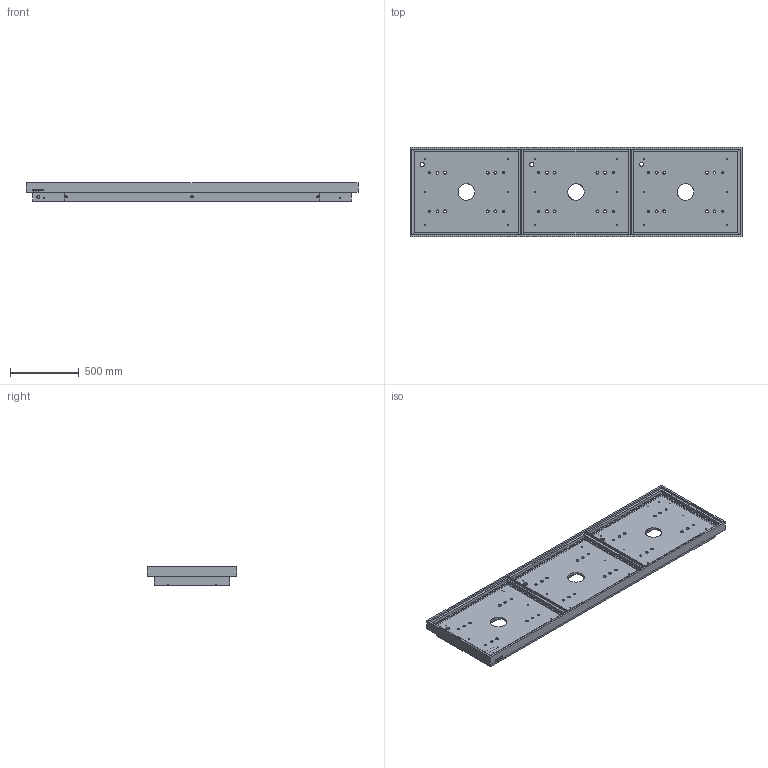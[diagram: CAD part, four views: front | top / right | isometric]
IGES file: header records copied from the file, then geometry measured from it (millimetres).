
Global section: file name: 80002; native system: Autodesk Inventor 2014; preprocessor: unknown; author: Robertom; date: 20140526.111052; units: millimetre
Bounding box: 2408 x 650 x 135 mm (x, y, z)
Volume: 55036752.4 mm3; surface area: 7885845.2 mm2
Topology: 39 solids, 39 shells, 818 faces, 2202 edges, 1516 vertices
Faces by surface type: bspline 818
